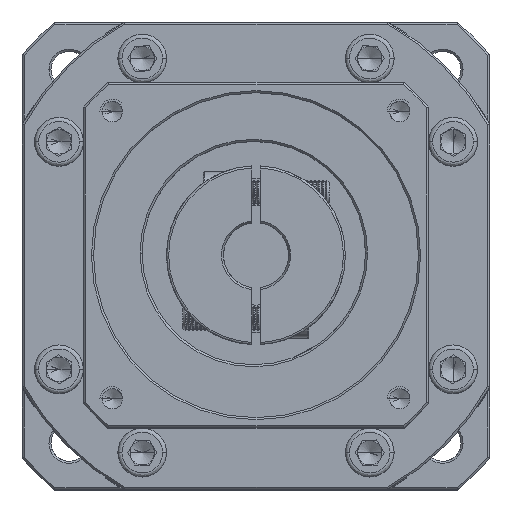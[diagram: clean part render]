
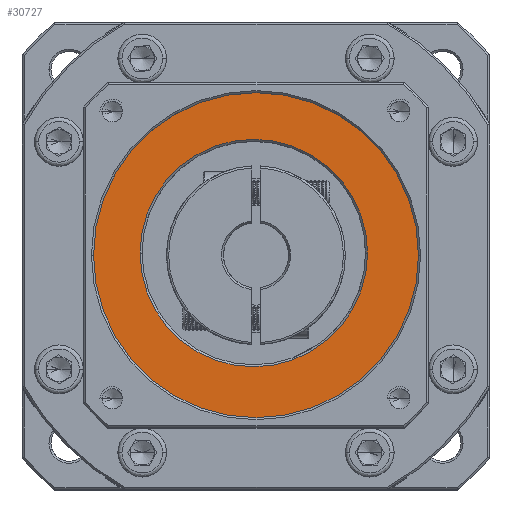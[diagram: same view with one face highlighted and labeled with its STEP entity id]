
A CAD part, top view. The second image highlights one B-rep face of the part: STEP entity #30727.
In plain terms, the highlighted planar face has unit normal (0, 0, 1).
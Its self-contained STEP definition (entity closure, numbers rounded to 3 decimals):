
#11382 = VERTEX_POINT ( 'NONE', #46422 ) ;
#12814 = AXIS2_PLACEMENT_3D ( 'NONE', #13015, #75298, #21909 ) ;
#13015 = CARTESIAN_POINT ( 'NONE',  ( 57.945, -51.453, -19.608 ) ) ;
#13287 = DIRECTION ( 'NONE',  ( 0., 0., -1. ) ) ;
#16127 = CARTESIAN_POINT ( 'NONE',  ( 57.945, -51.453, -19.608 ) ) ;
#21825 = CIRCLE ( 'NONE', #81334, 28. ) ;
#21909 = DIRECTION ( 'NONE',  ( 1., 0., 0. ) ) ;
#24427 = CIRCLE ( 'NONE', #91874, 40. ) ;
#25049 = DIRECTION ( 'NONE',  ( 1., 0., 0. ) ) ;
#25966 = DIRECTION ( 'NONE',  ( 0., 0., -1. ) ) ;
#26677 = ORIENTED_EDGE ( 'NONE', *, *, #93502, .T. ) ;
#27138 = CARTESIAN_POINT ( 'NONE',  ( 97.945, -51.453, -19.608 ) ) ;
#27442 = EDGE_CURVE ( 'NONE', #84318, #40842, #24427, .T. ) ;
#27543 = AXIS2_PLACEMENT_3D ( 'NONE', #79361, #25966, #88300 ) ;
#28664 = EDGE_CURVE ( 'NONE', #40842, #84318, #54719, .T. ) ;
#30727 = ADVANCED_FACE ( 'NONE', ( #63128, #42249 ), #101398, .T. ) ;
#31847 = DIRECTION ( 'NONE',  ( 0., 0., 1. ) ) ;
#40029 = EDGE_LOOP ( 'NONE', ( #66756, #26677 ) ) ;
#40842 = VERTEX_POINT ( 'NONE', #69908 ) ;
#42249 = FACE_BOUND ( 'NONE', #40029, .T. ) ;
#46422 = CARTESIAN_POINT ( 'NONE',  ( 29.404, -50.919, -19.608 ) ) ;
#48482 = EDGE_LOOP ( 'NONE', ( #114686, #80265 ) ) ;
#54719 = CIRCLE ( 'NONE', #106216, 40. ) ;
#54858 = VERTEX_POINT ( 'NONE', #93986 ) ;
#63128 = FACE_OUTER_BOUND ( 'NONE', #48482, .T. ) ;
#66583 = CARTESIAN_POINT ( 'NONE',  ( 57.404, -50.919, -19.608 ) ) ;
#66756 = ORIENTED_EDGE ( 'NONE', *, *, #82906, .T. ) ;
#69908 = CARTESIAN_POINT ( 'NONE',  ( 17.945, -51.453, -19.608 ) ) ;
#75298 = DIRECTION ( 'NONE',  ( 0., 0., 1. ) ) ;
#75579 = DIRECTION ( 'NONE',  ( 1., 0., 0. ) ) ;
#76001 = CIRCLE ( 'NONE', #27543, 28. ) ;
#78465 = DIRECTION ( 'NONE',  ( 0., 0., 1. ) ) ;
#79361 = CARTESIAN_POINT ( 'NONE',  ( 57.404, -50.919, -19.608 ) ) ;
#80265 = ORIENTED_EDGE ( 'NONE', *, *, #28664, .T. ) ;
#81334 = AXIS2_PLACEMENT_3D ( 'NONE', #66583, #13287, #75579 ) ;
#82906 = EDGE_CURVE ( 'NONE', #54858, #11382, #76001, .T. ) ;
#84318 = VERTEX_POINT ( 'NONE', #27138 ) ;
#85230 = CARTESIAN_POINT ( 'NONE',  ( 57.945, -51.453, -19.608 ) ) ;
#88300 = DIRECTION ( 'NONE',  ( 1., 0., 0. ) ) ;
#91874 = AXIS2_PLACEMENT_3D ( 'NONE', #16127, #78465, #25049 ) ;
#93502 = EDGE_CURVE ( 'NONE', #11382, #54858, #21825, .T. ) ;
#93986 = CARTESIAN_POINT ( 'NONE',  ( 85.404, -50.919, -19.608 ) ) ;
#94154 = DIRECTION ( 'NONE',  ( 1., 0., 0. ) ) ;
#101398 = PLANE ( 'NONE',  #12814 ) ;
#106216 = AXIS2_PLACEMENT_3D ( 'NONE', #85230, #31847, #94154 ) ;
#114686 = ORIENTED_EDGE ( 'NONE', *, *, #27442, .T. ) ;
